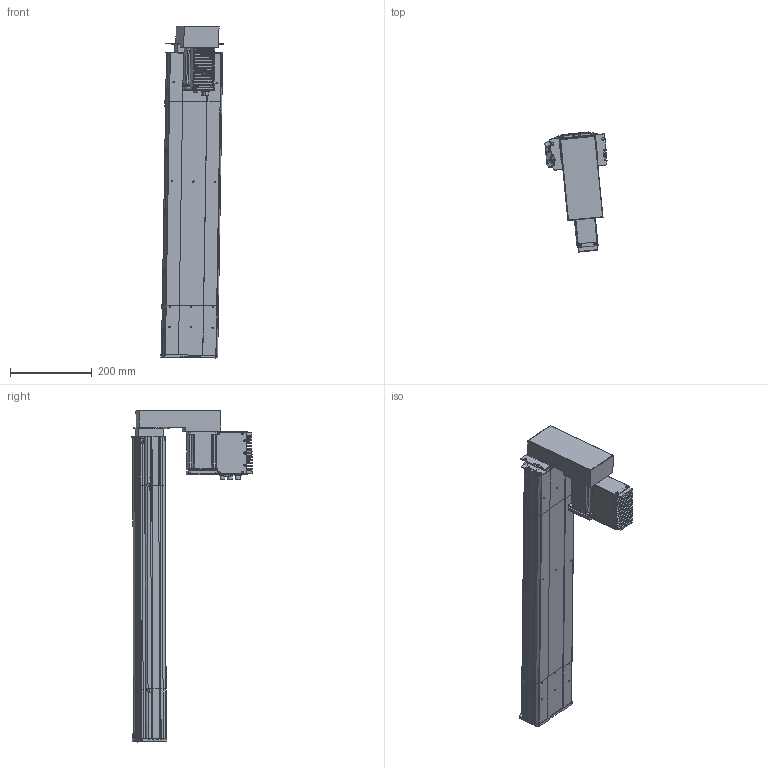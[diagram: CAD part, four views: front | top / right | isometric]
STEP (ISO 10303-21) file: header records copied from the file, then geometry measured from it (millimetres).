
FILE_DESCRIPTION (( 'STEP AP203' ), '1' );
FILE_NAME ('D14 TSH M4 BM L10 S500.STEP', '2012-10-11T12:11:51', ( '' ), ( '' ), 'SwSTEP 2.0', 'SolidWorks 2010', '' );
FILE_SCHEMA (( 'CONFIG_CONTROL_DESIGN' ));
Length unit declared in the file: millimetre
Products named in the file (22): Couvercle_2; corpl tail D14_Default_2; Moteur_2; Tôle Arrière_2; Tôle latérale_2; Vis TF 3 torkx_2; plaque de  bout tail D14_Default_2; D14 TSH M4 BM L10 S500; corp head D14_Default_2; plaque de  bout head D14 MD_Default_2; T犨e contre le moteur_2; Sub D 9cts_2; T犨e fond_2; Connecteur rond D10 3cts_2; Connecteur rond D12 4cts_2; Moteur 70BLDC90A_2; Colonnette_2; Radiateur_2; couvercle D14 head_Default_2; Pièce502; Pièce500; plaque de bout head D14 BM
Assembly tree (49 placements, depth 3):
  D14 TSH M4 BM L10 S500
    plaque de bout head D14 BM
    Pièce502
    Moteur_2
      Vis TF 3 torkx_2  x26
      Connecteur rond D12 4cts_2
      Connecteur rond D10 3cts_2  x2
      Tôle Arrière_2
      Sub D 9cts_2
      T犨e contre le moteur_2
      T犨e fond_2
      Moteur 70BLDC90A_2
      Radiateur_2
      Tôle latérale_2  x2
      Couvercle_2
      Colonnette_2
    corpl tail D14_Default_2
    Pièce500
    corp head D14_Default_2
    couvercle D14 head_Default_2  x2
    plaque de  bout head D14 MD_Default_2
    plaque de  bout tail D14_Default_2
Bounding box: 152.81 x 294.6 x 814.04 mm (x, y, z)
Volume: 3509860.9 mm3; surface area: 1020064 mm2
Topology: 70 solids, 70 shells, 2415 faces, 6303 edges, 4155 vertices
Faces by surface type: plane 1300, cylinder 851, cone 134, bspline 130
Entity records: 64759 total; most frequent: CARTESIAN_POINT 20869, ORIENTED_EDGE 8564, DIRECTION 8203, EDGE_CURVE 4282, LINE 2853, VECTOR 2853, VERTEX_POINT 2829, AXIS2_PLACEMENT_3D 2675
